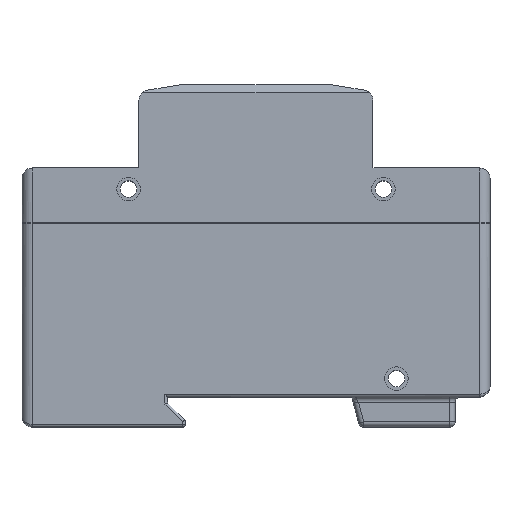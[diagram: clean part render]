
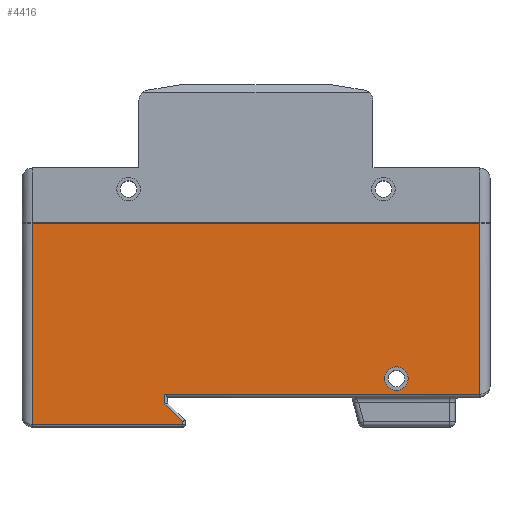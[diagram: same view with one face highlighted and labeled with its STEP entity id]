
A CAD part, top view. The second image highlights one B-rep face of the part: STEP entity #4416.
In plain terms, the highlighted planar face has unit normal (0, 0, 1).
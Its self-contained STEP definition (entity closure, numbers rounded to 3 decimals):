
#141=CIRCLE('',#4762,2.25);
#142=CIRCLE('',#4763,2.25);
#319=FACE_BOUND('',#673,.T.);
#410=FACE_OUTER_BOUND('',#672,.T.);
#672=EDGE_LOOP('',(#3282,#3283,#3284,#3285,#3286,#3287,#3288,#3289));
#673=EDGE_LOOP('',(#3290,#3291));
#1032=LINE('',#6740,#1493);
#1102=LINE('',#6903,#1563);
#1108=LINE('',#6918,#1569);
#1109=LINE('',#6920,#1570);
#1110=LINE('',#6922,#1571);
#1111=LINE('',#6924,#1572);
#1112=LINE('',#6926,#1573);
#1113=LINE('',#6927,#1574);
#1493=VECTOR('',#5371,10.);
#1563=VECTOR('',#5501,10.);
#1569=VECTOR('',#5515,10.);
#1570=VECTOR('',#5516,10.);
#1571=VECTOR('',#5517,10.);
#1572=VECTOR('',#5518,10.);
#1573=VECTOR('',#5519,10.);
#1574=VECTOR('',#5520,10.);
#1918=VERTEX_POINT('',#6737);
#1919=VERTEX_POINT('',#6739);
#1982=VERTEX_POINT('',#6901);
#1987=VERTEX_POINT('',#6917);
#1988=VERTEX_POINT('',#6919);
#1989=VERTEX_POINT('',#6921);
#1990=VERTEX_POINT('',#6923);
#1991=VERTEX_POINT('',#6925);
#1992=VERTEX_POINT('',#6928);
#1993=VERTEX_POINT('',#6929);
#2384=EDGE_CURVE('',#1919,#1918,#1032,.T.);
#2467=EDGE_CURVE('',#1982,#1918,#1102,.T.);
#2474=EDGE_CURVE('',#1987,#1982,#1108,.T.);
#2475=EDGE_CURVE('',#1988,#1987,#1109,.T.);
#2476=EDGE_CURVE('',#1989,#1988,#1110,.T.);
#2477=EDGE_CURVE('',#1990,#1989,#1111,.T.);
#2478=EDGE_CURVE('',#1991,#1990,#1112,.T.);
#2479=EDGE_CURVE('',#1919,#1991,#1113,.T.);
#2480=EDGE_CURVE('',#1992,#1993,#141,.T.);
#2481=EDGE_CURVE('',#1993,#1992,#142,.T.);
#3282=ORIENTED_EDGE('',*,*,#2384,.T.);
#3283=ORIENTED_EDGE('',*,*,#2467,.F.);
#3284=ORIENTED_EDGE('',*,*,#2474,.F.);
#3285=ORIENTED_EDGE('',*,*,#2475,.F.);
#3286=ORIENTED_EDGE('',*,*,#2476,.F.);
#3287=ORIENTED_EDGE('',*,*,#2477,.F.);
#3288=ORIENTED_EDGE('',*,*,#2478,.F.);
#3289=ORIENTED_EDGE('',*,*,#2479,.F.);
#3290=ORIENTED_EDGE('',*,*,#2480,.T.);
#3291=ORIENTED_EDGE('',*,*,#2481,.T.);
#4238=PLANE('',#4761);
#4416=ADVANCED_FACE('',(#410,#319),#4238,.T.);
#4761=AXIS2_PLACEMENT_3D('',#6916,#5513,#5514);
#4762=AXIS2_PLACEMENT_3D('',#6930,#5521,#5522);
#4763=AXIS2_PLACEMENT_3D('',#6931,#5523,#5524);
#5371=DIRECTION('',(-1.,0.,0.));
#5501=DIRECTION('',(0.,1.,0.));
#5513=DIRECTION('center_axis',(0.,0.,1.));
#5514=DIRECTION('ref_axis',(1.,0.,0.));
#5515=DIRECTION('',(-1.,0.,0.));
#5516=DIRECTION('',(0.,-1.,0.));
#5517=DIRECTION('',(0.718,-0.696,0.));
#5518=DIRECTION('',(0.,-1.,0.));
#5519=DIRECTION('',(-1.,0.,0.));
#5520=DIRECTION('',(0.,-1.,0.));
#5521=DIRECTION('center_axis',(0.,0.,-1.));
#5522=DIRECTION('ref_axis',(1.,0.,0.));
#5523=DIRECTION('center_axis',(0.,0.,-1.));
#5524=DIRECTION('ref_axis',(1.,0.,0.));
#6737=CARTESIAN_POINT('',(-43.,3.4,35.2));
#6739=CARTESIAN_POINT('',(43.,3.4,35.2));
#6740=CARTESIAN_POINT('',(0.046,3.4,35.2));
#6901=CARTESIAN_POINT('',(-43.,-35.3,35.2));
#6903=CARTESIAN_POINT('',(-43.,4.121,35.2));
#6916=CARTESIAN_POINT('Origin',(-0.355,-5.758,35.2));
#6917=CARTESIAN_POINT('',(-14.1,-35.3,35.2));
#6918=CARTESIAN_POINT('',(-22.678,-35.3,35.2));
#6919=CARTESIAN_POINT('',(-14.1,-34.711,35.2));
#6920=CARTESIAN_POINT('',(-14.1,-20.779,35.2));
#6921=CARTESIAN_POINT('',(-17.5,-31.411,35.2));
#6922=CARTESIAN_POINT('',(-17.721,-31.197,35.2));
#6923=CARTESIAN_POINT('',(-17.5,-29.5,35.2));
#6924=CARTESIAN_POINT('',(-17.5,-18.479,35.2));
#6925=CARTESIAN_POINT('',(43.,-29.5,35.2));
#6926=CARTESIAN_POINT('',(18.972,-29.5,35.2));
#6927=CARTESIAN_POINT('',(43.,-17.879,35.2));
#6928=CARTESIAN_POINT('',(29.25,-26.5,35.2));
#6929=CARTESIAN_POINT('',(24.75,-26.5,35.2));
#6930=CARTESIAN_POINT('Origin',(27.,-26.5,35.2));
#6931=CARTESIAN_POINT('Origin',(27.,-26.5,35.2));
